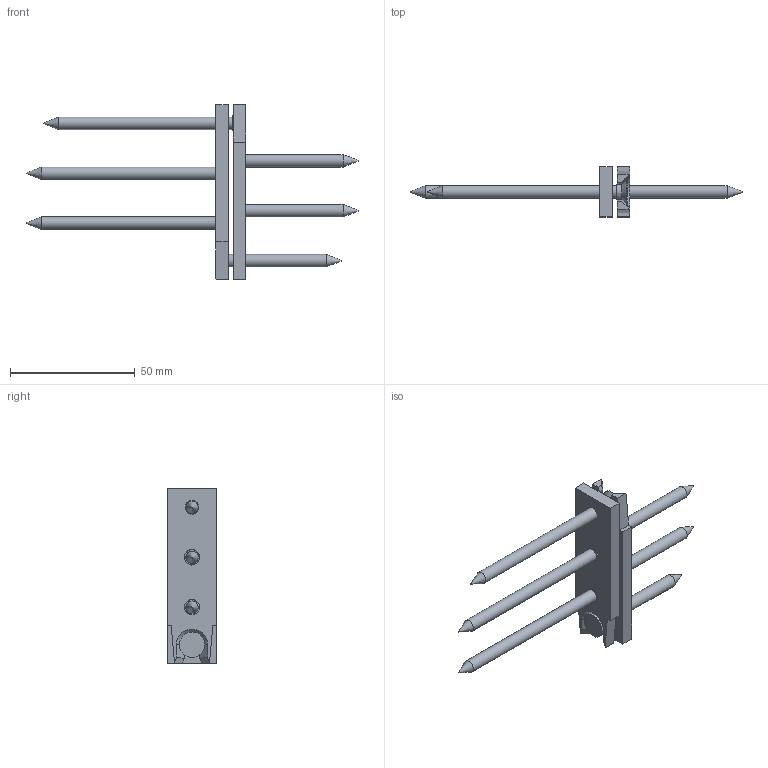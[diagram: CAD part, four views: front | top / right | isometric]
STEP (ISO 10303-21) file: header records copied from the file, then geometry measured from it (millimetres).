
FILE_DESCRIPTION(/* description */ ('Unknown'),/* implementation_level */ '2;1');
FILE_NAME(/* name */ 'RICON Edelstahl_70x20_EA',/* time_stamp */ '2022-02-07T13:43:17+01:00',/* author */ ('Unknown'),/* organization */ ('Unknown'),/* preprocessor_version */ 'ST-DEVELOPER v16.7',/* originating_system */ 'Solid Edge',/* authorisation */ 'Unknown');
FILE_SCHEMA (('AUTOMOTIVE_DESIGN {1 0 10303 214 3 1 1}'));
Length unit declared in the file: millimetre
Products named in the file (4): RICON_20x70_zusammenbau_mit Fase; RICON_20x70_mit Fase; SK_Schraube_5x50; SK_Schraube_5x80
Assembly tree (8 placements, depth 2):
  RICON_20x70_zusammenbau_mit Fase
    RICON_20x70_mit Fase  x2
    SK_Schraube_5x50  x3
    SK_Schraube_5x80  x3
Bounding box: 132.9 x 20.01 x 70 mm (x, y, z)
Volume: 18985 mm3; surface area: 13812.3 mm2
Topology: 8 solids, 8 shells, 100 faces, 210 edges, 132 vertices
Faces by surface type: plane 56, cylinder 26, cone 18
Full cylindrical faces by diameter (mm): 5 x6, 5.5 x2, 6 x6, 6.2 x4, 10 x3, 10.2 x3
Entity records: 1202 total; most frequent: DIRECTION 202, CARTESIAN_POINT 182, ORIENTED_EDGE 150, AXIS2_PLACEMENT_3D 76, EDGE_CURVE 75, EDGE_LOOP 65, FACE_BOUND 65, VERTEX_POINT 56
